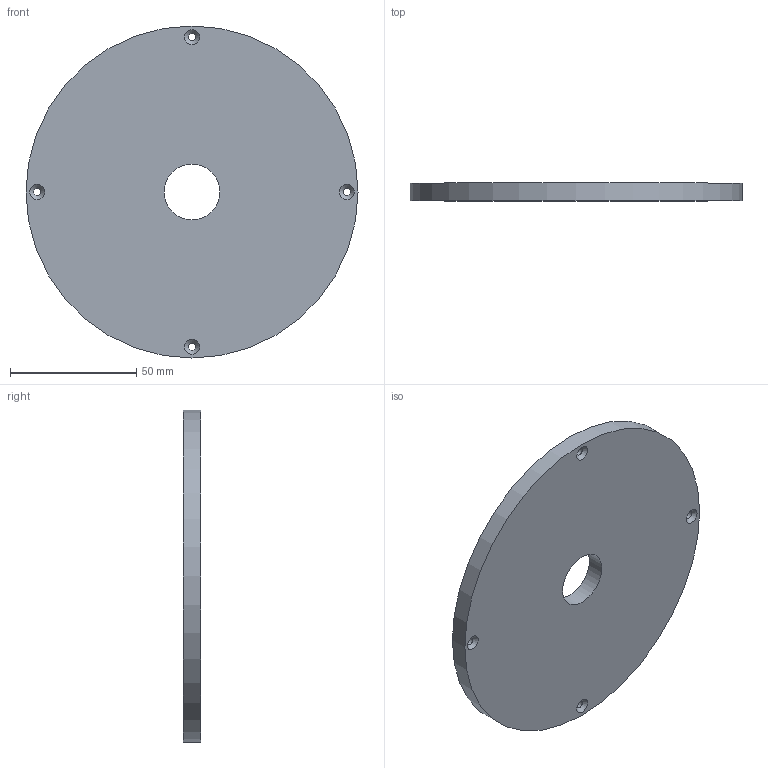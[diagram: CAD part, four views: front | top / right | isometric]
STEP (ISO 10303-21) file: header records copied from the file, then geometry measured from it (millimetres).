
FILE_DESCRIPTION(/* description */ ('STEP AP242 Edition 2','CAx-IF Rec.Pracs.---Representation and Presentation of Product Manufacturing Information (PMI)---4.0---2014-10-13','CAx-IF Rec.Pracs.---3D Tessellated Geometry---0.4---2014-09-14','2;1','CAx-IF Rec.Pracs.---User Defined Attributes---1.5---2016-08-15'),/* implementation_level */ '2;1');
FILE_NAME(/* name */ 'Assembly V2 - Part 7',/* time_stamp */ '2026-02-05T22:44:42Z',/* author */ (''),/* organization */ (''),/* preprocessor_version */ 'ST-DEVELOPER v20',/* originating_system */ 'ONSHAPE BY PTC INC, 1.210',/* authorisation */ ' ');
FILE_SCHEMA (('AP242_MANAGED_MODEL_BASED_3D_ENGINEERING_MIM_LF { 1 0 10303 442 3 1 4 }'));
Length unit declared in the file: metre
Products named in the file (1): Part 7
Bounding box: 131.67 x 7 x 131.67 mm (x, y, z)
Volume: 92404.9 mm3; surface area: 30039.5 mm2
Topology: 1 solids, 1 shells, 12 faces, 26 edges, 16 vertices
Faces by surface type: cylinder 6, cone 4, plane 2
Full cylindrical faces by diameter (mm): 3 x4, 22 x1, 131.674 x1
Entity records: 326 total; most frequent: DIRECTION 58, CARTESIAN_POINT 45, ORIENTED_EDGE 32, EDGE_LOOP 32, FACE_BOUND 32, AXIS2_PLACEMENT_3D 29, EDGE_CURVE 16, VERTEX_POINT 16
